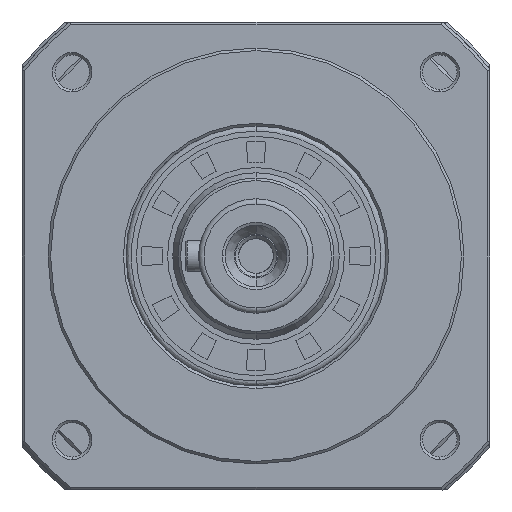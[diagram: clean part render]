
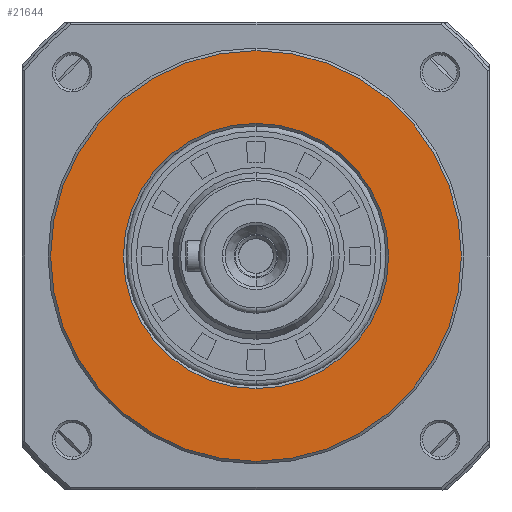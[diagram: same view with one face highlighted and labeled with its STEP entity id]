
A CAD part, left-side view. The second image highlights one B-rep face of the part: STEP entity #21644.
In plain terms, the highlighted planar face has unit normal (-1, 0, 0).
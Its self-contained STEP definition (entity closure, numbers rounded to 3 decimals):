
#1708 = EDGE_CURVE ( 'NONE', #23730, #24522, #93142, .T. ) ;
#2184 = CARTESIAN_POINT ( 'NONE',  ( 0., 0., 39.5 ) ) ;
#2250 = EDGE_LOOP ( 'NONE', ( #73900, #70785 ) ) ;
#2446 = DIRECTION ( 'NONE',  ( 0., 0., -1. ) ) ;
#3267 = CIRCLE ( 'NONE', #59515, 39.5 ) ;
#3604 = DIRECTION ( 'NONE',  ( -1., 0., 0. ) ) ;
#5399 = EDGE_CURVE ( 'NONE', #56775, #66608, #38975, .T. ) ;
#11430 = EDGE_CURVE ( 'NONE', #24522, #23730, #3267, .T. ) ;
#12562 = AXIS2_PLACEMENT_3D ( 'NONE', #86837, #86499, #55958 ) ;
#17536 = EDGE_CURVE ( 'NONE', #66608, #56775, #47722, .T. ) ;
#18009 = CARTESIAN_POINT ( 'NONE',  ( 0., -39.974, 39.974 ) ) ;
#21644 = ADVANCED_FACE ( 'NONE', ( #78294, #59629 ), #62213, .F. ) ;
#23730 = VERTEX_POINT ( 'NONE', #2184 ) ;
#24522 = VERTEX_POINT ( 'NONE', #50307 ) ;
#31335 = DIRECTION ( 'NONE',  ( 0., 0., -1. ) ) ;
#32073 = CARTESIAN_POINT ( 'NONE',  ( 0., 0., -25.5 ) ) ;
#32082 = AXIS2_PLACEMENT_3D ( 'NONE', #18009, #32955, #2446 ) ;
#32955 = DIRECTION ( 'NONE',  ( 1., 0., 0. ) ) ;
#38975 = CIRCLE ( 'NONE', #51911, 25.5 ) ;
#41020 = EDGE_LOOP ( 'NONE', ( #86412, #94536 ) ) ;
#47722 = CIRCLE ( 'NONE', #12562, 25.5 ) ;
#50307 = CARTESIAN_POINT ( 'NONE',  ( 0., 0., -39.5 ) ) ;
#51911 = AXIS2_PLACEMENT_3D ( 'NONE', #56704, #78178, #70414 ) ;
#55958 = DIRECTION ( 'NONE',  ( 0., 0., 1. ) ) ;
#56704 = CARTESIAN_POINT ( 'NONE',  ( 0., 0., 0. ) ) ;
#56775 = VERTEX_POINT ( 'NONE', #93679 ) ;
#59515 = AXIS2_PLACEMENT_3D ( 'NONE', #73158, #87463, #31335 ) ;
#59629 = FACE_OUTER_BOUND ( 'NONE', #41020, .T. ) ;
#62213 = PLANE ( 'NONE',  #32082 ) ;
#66608 = VERTEX_POINT ( 'NONE', #32073 ) ;
#69635 = DIRECTION ( 'NONE',  ( 0., 0., -1. ) ) ;
#70414 = DIRECTION ( 'NONE',  ( 0., 0., 1. ) ) ;
#70785 = ORIENTED_EDGE ( 'NONE', *, *, #17536, .F. ) ;
#73158 = CARTESIAN_POINT ( 'NONE',  ( 0., 0., 0. ) ) ;
#73900 = ORIENTED_EDGE ( 'NONE', *, *, #5399, .F. ) ;
#77252 = AXIS2_PLACEMENT_3D ( 'NONE', #78028, #3604, #69635 ) ;
#78028 = CARTESIAN_POINT ( 'NONE',  ( 0., 0., 0. ) ) ;
#78178 = DIRECTION ( 'NONE',  ( -1., 0., 0. ) ) ;
#78294 = FACE_BOUND ( 'NONE', #2250, .T. ) ;
#86412 = ORIENTED_EDGE ( 'NONE', *, *, #11430, .T. ) ;
#86499 = DIRECTION ( 'NONE',  ( -1., 0., 0. ) ) ;
#86837 = CARTESIAN_POINT ( 'NONE',  ( 0., 0., 0. ) ) ;
#87463 = DIRECTION ( 'NONE',  ( -1., 0., 0. ) ) ;
#93142 = CIRCLE ( 'NONE', #77252, 39.5 ) ;
#93679 = CARTESIAN_POINT ( 'NONE',  ( 0., 0., 25.5 ) ) ;
#94536 = ORIENTED_EDGE ( 'NONE', *, *, #1708, .T. ) ;
